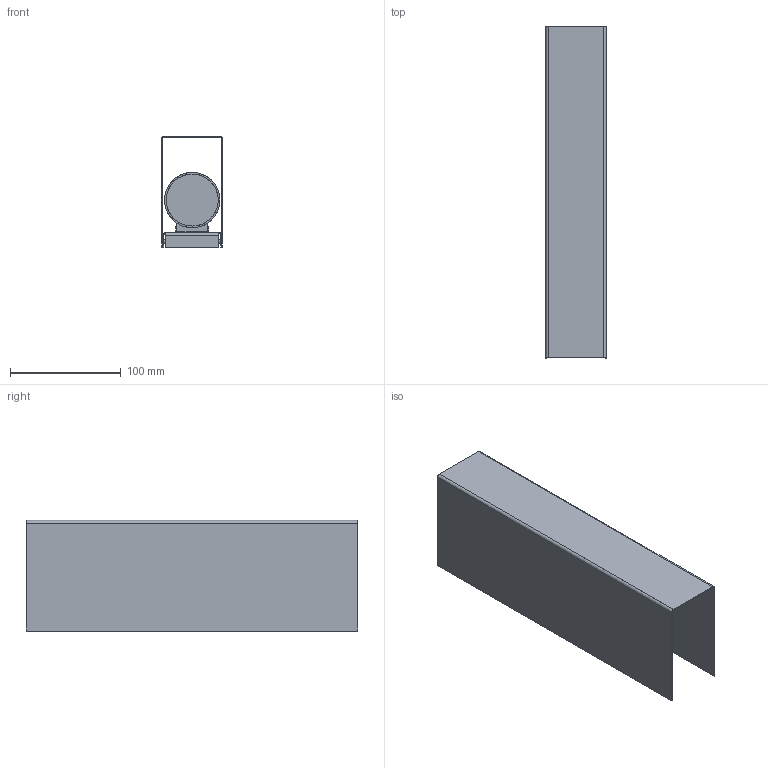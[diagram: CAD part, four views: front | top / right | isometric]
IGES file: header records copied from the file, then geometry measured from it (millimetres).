
Start section: SolidWorks IGES file using analytic representation for surfaces
Global section: file name: E:\....SOLID WORKS\...BORYS\CUBE blachy NOWE\MODELE IGS zlozenia\MALMO.IGS; native system: SolidWorks 2016; preprocessor: SolidWorks 2016; author: DELL; date: 170419.144600; units: millimetre
Bounding box: 55 x 300 x 100.5 mm (x, y, z)
Surface area: 217407.5 mm2 (no closed solid volume)
Topology: 0 solids, 0 shells, 514 faces, 7900 edges, 7886 vertices
Faces by surface type: bspline 267, revolution 247
